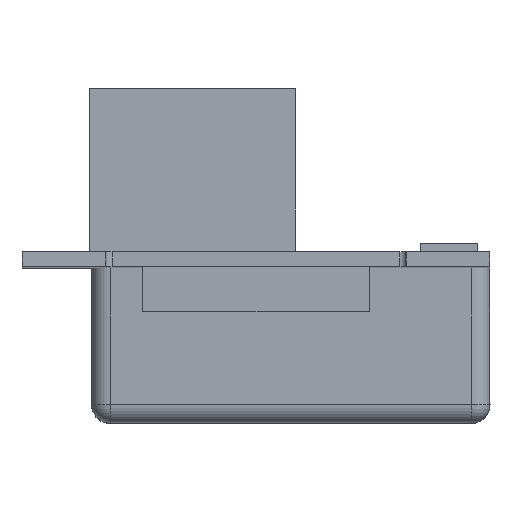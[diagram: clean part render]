
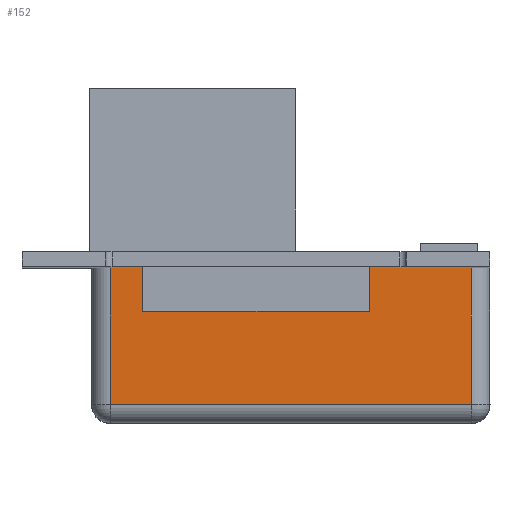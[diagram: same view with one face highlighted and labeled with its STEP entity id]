
A CAD part, top view. The second image highlights one B-rep face of the part: STEP entity #152.
In plain terms, the highlighted planar face has unit normal (0, 0, 1).
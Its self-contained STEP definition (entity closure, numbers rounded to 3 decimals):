
#152=ADVANCED_FACE('',(#239),#856,.T.);
#239=FACE_OUTER_BOUND('',#349,.F.);
#349=EDGE_LOOP('',(#724,#725,#726,#727));
#724=ORIENTED_EDGE('',*,*,#932,.F.);
#725=ORIENTED_EDGE('',*,*,#1095,.T.);
#726=ORIENTED_EDGE('',*,*,#1099,.F.);
#727=ORIENTED_EDGE('',*,*,#1091,.F.);
#856=PLANE('',#1756);
#932=EDGE_CURVE('',#1619,#1624,#1151,.T.);
#1091=EDGE_CURVE('',#1624,#1525,#1268,.T.);
#1095=EDGE_CURVE('',#1619,#1520,#1272,.T.);
#1099=EDGE_CURVE('',#1525,#1520,#1276,.T.);
#1151=LINE('',#2377,#1328);
#1268=LINE('',#2536,#1445);
#1272=LINE('',#2540,#1449);
#1276=LINE('',#2544,#1453);
#1328=VECTOR('',#1793,29.);
#1445=VECTOR('',#1994,11.);
#1449=VECTOR('',#1998,11.);
#1453=VECTOR('',#2002,29.);
#1520=VERTEX_POINT('',#2246);
#1525=VERTEX_POINT('',#2251);
#1619=VERTEX_POINT('',#2345);
#1624=VERTEX_POINT('',#2350);
#1756=AXIS2_PLACEMENT_3D('',#2657,#2186,#2187);
#1793=DIRECTION('',(-1.,0.,0.));
#1994=DIRECTION('',(0.,-1.,0.));
#1998=DIRECTION('',(0.,-1.,0.));
#2002=DIRECTION('',(1.,0.,0.));
#2186=DIRECTION('',(0.,0.,1.));
#2187=DIRECTION('',(1.,0.,0.));
#2246=CARTESIAN_POINT('',(22.045,85.304,-32.971));
#2251=CARTESIAN_POINT('',(-6.955,85.304,-32.971));
#2345=CARTESIAN_POINT('',(22.045,96.304,-32.971));
#2350=CARTESIAN_POINT('',(-6.955,96.304,-32.971));
#2377=CARTESIAN_POINT('',(22.045,96.304,-32.971));
#2536=CARTESIAN_POINT('',(-6.955,96.304,-32.971));
#2540=CARTESIAN_POINT('',(22.045,96.304,-32.971));
#2544=CARTESIAN_POINT('',(-6.955,85.304,-32.971));
#2657=CARTESIAN_POINT('',(-8.455,83.804,-32.971));
